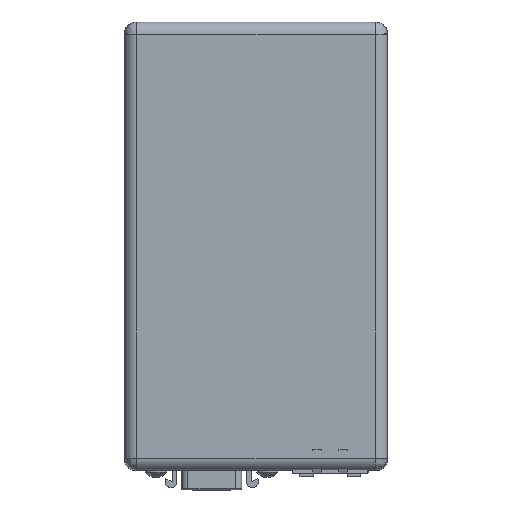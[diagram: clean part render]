
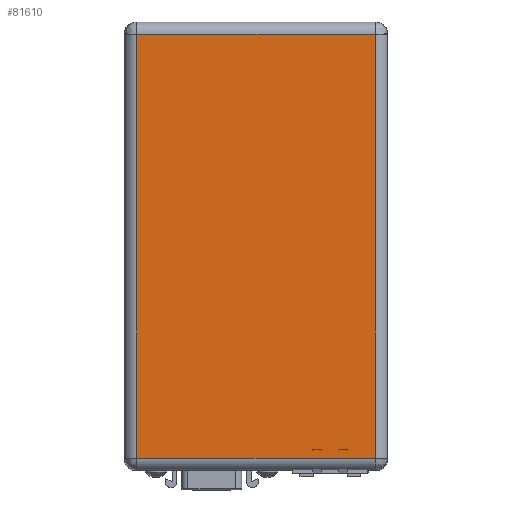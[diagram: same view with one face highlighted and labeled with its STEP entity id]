
A CAD part, top view. The second image highlights one B-rep face of the part: STEP entity #81610.
In plain terms, the highlighted planar face has unit normal (0, 0, 1).
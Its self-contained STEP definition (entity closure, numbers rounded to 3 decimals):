
#16556 = DIRECTION ( 'NONE',  ( 0., 0., 1. ) ) ;
#19284 = VERTEX_POINT ( 'NONE', #126660 ) ;
#22606 = CARTESIAN_POINT ( 'NONE',  ( 25.298, 18.948, 15.3 ) ) ;
#30315 = LINE ( 'NONE', #65228, #69087 ) ;
#31510 = LINE ( 'NONE', #80456, #109205 ) ;
#37193 = DIRECTION ( 'NONE',  ( -1., 0., 0. ) ) ;
#40252 = VECTOR ( 'NONE', #37193, 1000. ) ;
#44234 = CARTESIAN_POINT ( 'NONE',  ( 25.298, 18.948, 15.3 ) ) ;
#45181 = PLANE ( 'NONE',  #81500 ) ;
#49022 = EDGE_CURVE ( 'NONE', #100539, #143972, #83638, .T. ) ;
#57414 = VECTOR ( 'NONE', #145826, 1000. ) ;
#60203 = ORIENTED_EDGE ( 'NONE', *, *, #102521, .T. ) ;
#63547 = EDGE_CURVE ( 'NONE', #111319, #100539, #96204, .T. ) ;
#65228 = CARTESIAN_POINT ( 'NONE',  ( 25.298, -71.018, 15.3 ) ) ;
#66473 = DIRECTION ( 'NONE',  ( 1., 0., 0. ) ) ;
#69087 = VECTOR ( 'NONE', #66473, 1000. ) ;
#79826 = DIRECTION ( 'NONE',  ( 0., -1., 0. ) ) ;
#80456 = CARTESIAN_POINT ( 'NONE',  ( -25.298, 18.948, 15.3 ) ) ;
#81500 = AXIS2_PLACEMENT_3D ( 'NONE', #103936, #16556, #118643 ) ;
#81610 = ADVANCED_FACE ( 'NONE', ( #168026 ), #45181, .T. ) ;
#83638 = LINE ( 'NONE', #22606, #40252 ) ;
#96204 = LINE ( 'NONE', #44234, #57414 ) ;
#100539 = VERTEX_POINT ( 'NONE', #168553 ) ;
#102521 = EDGE_CURVE ( 'NONE', #19284, #111319, #30315, .T. ) ;
#103936 = CARTESIAN_POINT ( 'NONE',  ( 25.298, 18.948, 15.3 ) ) ;
#109205 = VECTOR ( 'NONE', #79826, 1000. ) ;
#111319 = VERTEX_POINT ( 'NONE', #189108 ) ;
#118643 = DIRECTION ( 'NONE',  ( 1., 0., 0. ) ) ;
#126660 = CARTESIAN_POINT ( 'NONE',  ( -25.298, -71.018, 15.3 ) ) ;
#126693 = ORIENTED_EDGE ( 'NONE', *, *, #49022, .T. ) ;
#128501 = EDGE_CURVE ( 'NONE', #143972, #19284, #31510, .T. ) ;
#133685 = EDGE_LOOP ( 'NONE', ( #134118, #60203, #144547, #126693 ) ) ;
#134118 = ORIENTED_EDGE ( 'NONE', *, *, #128501, .T. ) ;
#141640 = CARTESIAN_POINT ( 'NONE',  ( -25.298, 18.948, 15.3 ) ) ;
#143972 = VERTEX_POINT ( 'NONE', #141640 ) ;
#144547 = ORIENTED_EDGE ( 'NONE', *, *, #63547, .T. ) ;
#145826 = DIRECTION ( 'NONE',  ( 0., 1., 0. ) ) ;
#168026 = FACE_OUTER_BOUND ( 'NONE', #133685, .T. ) ;
#168553 = CARTESIAN_POINT ( 'NONE',  ( 25.298, 18.948, 15.3 ) ) ;
#189108 = CARTESIAN_POINT ( 'NONE',  ( 25.298, -71.018, 15.3 ) ) ;
